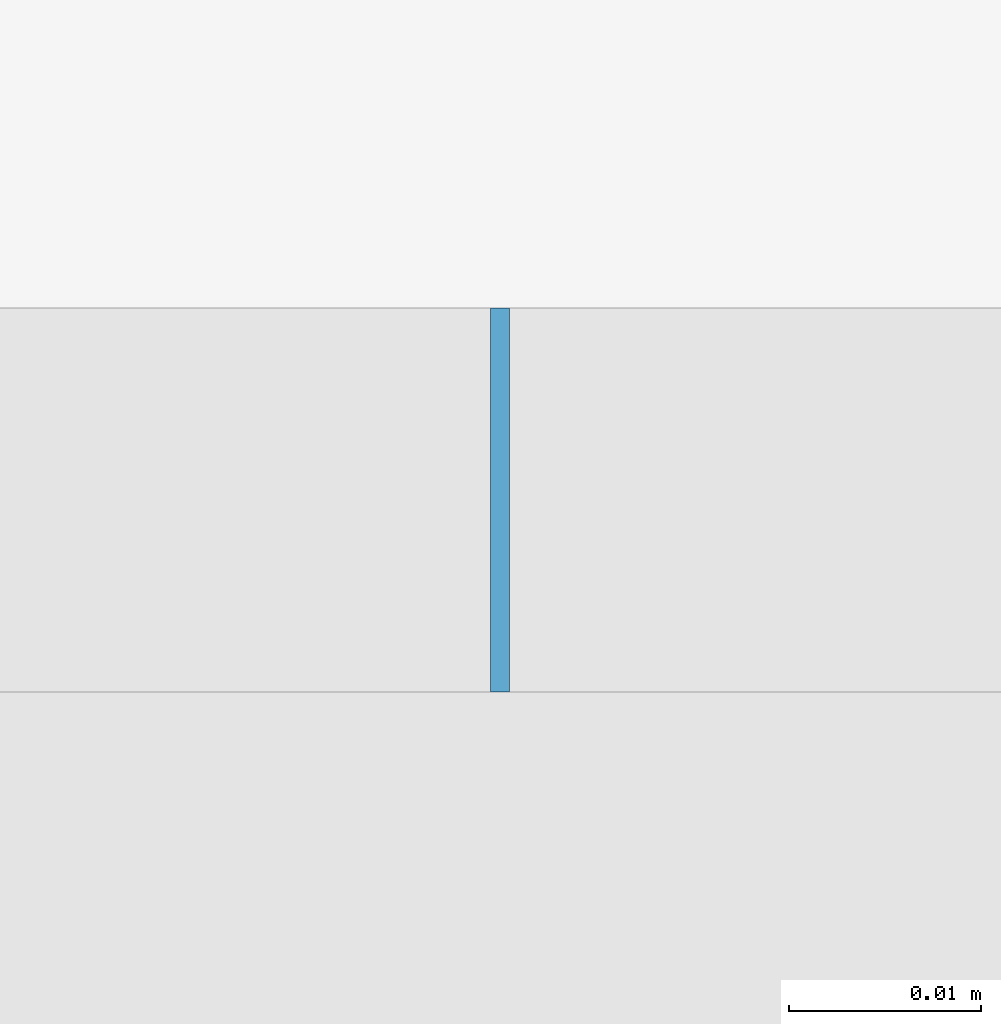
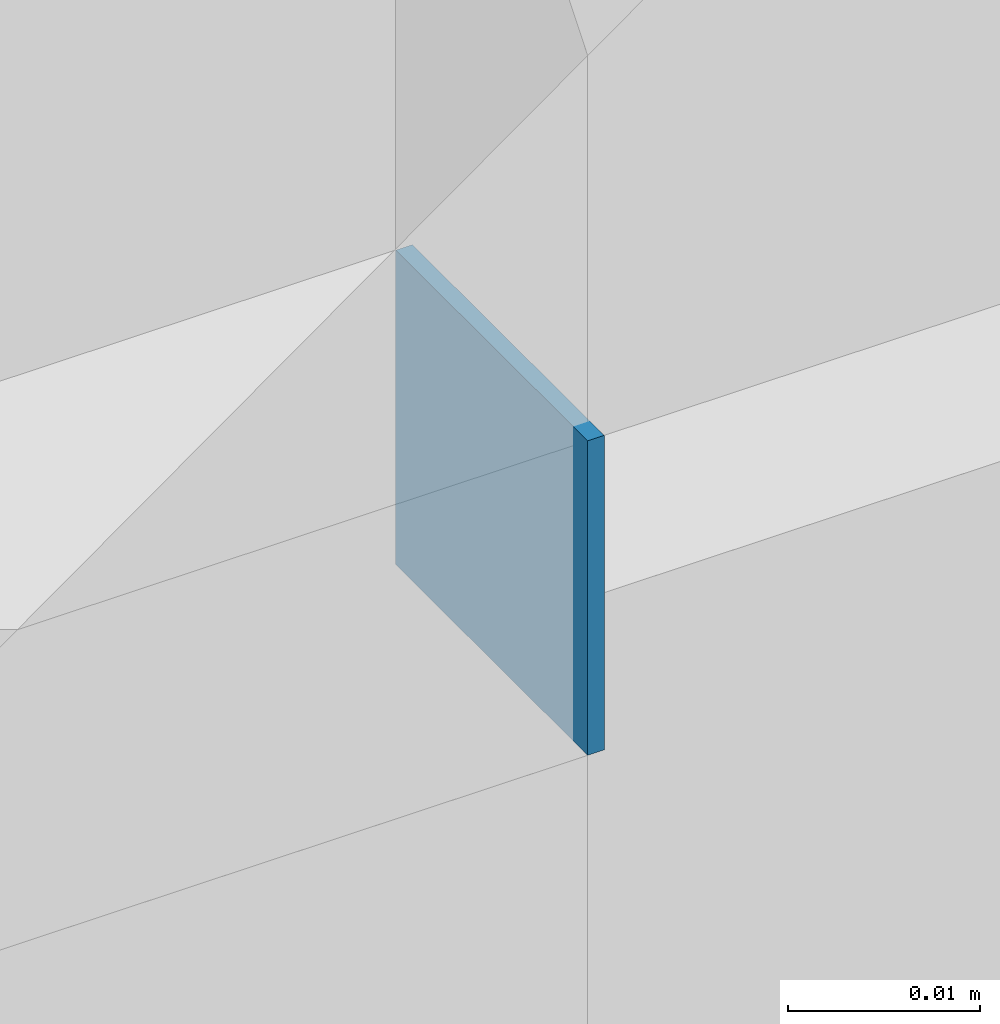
# One storey, part 23 of 73: 1 member, 1 element without a shape of its own.
"""IFC2X3 building model written with IfcOpenShell, lengths in millimetres."""

import ifcopenshell
import ifcopenshell.guid

model = None  # the IFC model being written
_history = None  # IfcOwnerHistory: only IFC2X3 demands one
_inside = {}  # id of a spatial element -> (the spatial element, [elements in it])
_under = {}  # id of a project, library or spatial element -> (it, [spatial elements below it])
_declared = {}  # id of a project -> (the project, [libraries it declares])
_typed = {}  # id of a type object -> (the type object, [elements of that type])
_made_of = {}  # id of a material, layer set ... -> (it, [elements and type objects made of it])


def new_model(schema):
    """Start an empty IFC model of exactly this schema.

    Asked for "IFC4X3", IfcOpenShell would pick the latest addendum, in which some entities
    have other attributes; the version numbers below select the first issue.
    IFC2X3 requires an IfcOwnerHistory on every rooted entity: one is made here for all.
    """
    global model, _history
    if schema == "IFC4X3":
        model = ifcopenshell.file(schema_version=(4, 3, 0, 0))
    else:
        model = ifcopenshell.file(schema=schema)
    _inside.clear()
    _under.clear()
    _declared.clear()
    _typed.clear()
    _made_of.clear()
    _history = None
    if model.schema == "IFC2X3":
        org = make("IfcOrganization", Name="unknown")
        user = make(
            "IfcPersonAndOrganization",
            ThePerson=make("IfcPerson", FamilyName="unknown"),
            TheOrganization=org,
        )
        app = make(
            "IfcApplication",
            ApplicationDeveloper=org,
            Version="unknown",
            ApplicationFullName="unknown",
            ApplicationIdentifier="unknown",
        )
        _history = make(
            "IfcOwnerHistory",
            OwningUser=user,
            OwningApplication=app,
            ChangeAction="ADDED",
            CreationDate=0,
        )
    return model


def make(cls, **values):
    """One entity of the class cls with the attributes given. An attribute that is None is left unset."""
    return model.create_entity(
        cls, **{name: value for name, value in values.items() if value is not None}
    )


def entity(cls, *values):
    """Any entity or typed value of the class cls, its attributes in the order of the schema. None: left unset."""
    e = model.create_entity(cls)
    for i, value in enumerate(values):
        if value is not None:
            e[i] = value
    return e


def rooted(cls, **values):
    """An entity with a GlobalId (a new one), such as an element, a storey or a relation."""
    return make(cls, GlobalId=ifcopenshell.guid.new(), OwnerHistory=_history, **values)


def si_unit(unit_type, name, prefix=None):
    """IfcSIUnit, for example si_unit("LENGTHUNIT", "METRE", prefix="MILLI")."""
    return make("IfcSIUnit", UnitType=unit_type, Prefix=prefix, Name=name)


def converted_unit(unit_type, name, factor, base, dimensions=None, offset=None):
    """IfcConversionBasedUnit, such as the inch: factor (a typed value) times the base unit."""
    return make(
        "IfcConversionBasedUnit"
        if offset is None
        else "IfcConversionBasedUnitWithOffset",
        ConversionOffset=offset,
        Dimensions=None
        if dimensions is None
        else entity("IfcDimensionalExponents", *dimensions),
        UnitType=unit_type,
        Name=name,
        ConversionFactor=make(
            "IfcMeasureWithUnit", ValueComponent=factor, UnitComponent=base
        ),
    )


def derived_unit(unit_type, elements):
    """IfcDerivedUnit: a product of units, each with its exponent."""
    return make(
        "IfcDerivedUnit",
        Elements=[
            make("IfcDerivedUnitElement", Unit=unit, Exponent=power)
            for unit, power in elements
        ],
        UnitType=unit_type,
    )


def assignment(units):
    """IfcUnitAssignment: the units of a project."""
    return None if units is None else make("IfcUnitAssignment", Units=units)


def point(xyz):
    """IfcCartesianPoint."""
    return None if xyz is None else make("IfcCartesianPoint", Coordinates=xyz)


def direction(xyz):
    """IfcDirection."""
    return None if xyz is None else make("IfcDirection", DirectionRatios=xyz)


def frame(location, z_axis=None, x_axis=None):
    """IfcAxis2Placement3D, a coordinate frame: its origin and axes. An axis left out is left unset."""
    return make(
        "IfcAxis2Placement3D",
        Location=point(location),
        Axis=direction(z_axis),
        RefDirection=direction(x_axis),
    )


def frame_2d(location, x_axis=None):
    """IfcAxis2Placement2D, a coordinate frame in the plane: its origin and x axis."""
    return make(
        "IfcAxis2Placement2D", Location=point(location), RefDirection=direction(x_axis)
    )


def origin():
    """The frame at (0, 0, 0) with its axes left unset."""
    return frame((0.0, 0.0, 0.0))


def origin_2d_with_axis():
    """The frame at (0, 0) in the plane with the x axis (1, 0) written out."""
    return frame_2d((0.0, 0.0), x_axis=(1.0, 0.0))


def place(relative_to, where):
    """IfcLocalPlacement: puts the frame where relative to a parent placement (None: the world)."""
    return make(
        "IfcLocalPlacement", PlacementRelTo=relative_to, RelativePlacement=where
    )


def context(
    kind, dimensions, precision=None, world=None, true_north=None, identifier=None
):
    """IfcGeometricRepresentationContext, for example the 3D "Model" context."""
    return make(
        "IfcGeometricRepresentationContext",
        ContextIdentifier=identifier,
        ContextType=kind,
        CoordinateSpaceDimension=dimensions,
        Precision=precision,
        WorldCoordinateSystem=world,
        TrueNorth=true_north,
    )


def subcontext(parent, identifier, kind, view, scale=None):
    """IfcGeometricRepresentationSubContext, for example "Body" below "Model"."""
    return make(
        "IfcGeometricRepresentationSubContext",
        ContextIdentifier=identifier,
        ContextType=kind,
        ParentContext=parent,
        TargetScale=scale,
        TargetView=view,
    )


def project(units=None, contexts=None):
    """IfcProject with its units and contexts."""
    return rooted(
        "IfcProject",
        Name="project",
        RepresentationContexts=contexts,
        UnitsInContext=assignment(units),
    )


def spatial(cls, under=None, at=None, **own):
    """A site, building, storey or space (cls), placed at a placement, below another one or the project."""
    s = rooted(cls, ObjectPlacement=at, **own)
    if under is not None:
        _under.setdefault(under.id(), (under, []))[1].append(s)
    return s


def profile(cls, at=None, kind="AREA", **sizes):
    """A parametric profile (cls). Its sizes go by their IFC names, for example OverallWidth=200.0."""
    return make(cls, ProfileType=kind, Position=at, **sizes)


def rectangle(**sizes):
    """IfcRectangleProfileDef."""
    return profile("IfcRectangleProfileDef", **sizes)


def extrude(swept, where, along, depth):
    """IfcExtrudedAreaSolid: the profile swept, set in the frame where, extruded along a direction by depth."""
    return make(
        "IfcExtrudedAreaSolid",
        SweptArea=swept,
        Position=where,
        ExtrudedDirection=direction(along),
        Depth=depth,
    )


def shape(context_of_items, identifier, shape_type, items):
    """IfcShapeRepresentation: the items that make up one representation, for example the "Body"."""
    return make(
        "IfcShapeRepresentation",
        ContextOfItems=context_of_items,
        RepresentationIdentifier=identifier,
        RepresentationType=shape_type,
        Items=items,
    )


def source(mapping_origin, context_of_items, identifier, shape_type, items):
    """IfcRepresentationMap: a shape defined once, which mapped items show again and again."""
    return make(
        "IfcRepresentationMap",
        MappingOrigin=mapping_origin,
        MappedRepresentation=shape(context_of_items, identifier, shape_type, items),
    )


def transform(
    local_origin,
    x_axis=None,
    y_axis=None,
    z_axis=None,
    scale=None,
    scale2=None,
    scale3=None,
    uniform=True,
):
    """IfcCartesianTransformationOperator3D, or its non-uniform kind. x_axis, y_axis, z_axis: its Axis1, 2, 3."""
    if uniform:
        return make(
            "IfcCartesianTransformationOperator3D",
            Axis1=direction(x_axis),
            Axis2=direction(y_axis),
            LocalOrigin=point(local_origin),
            Scale=scale,
            Axis3=direction(z_axis),
        )
    return make(
        "IfcCartesianTransformationOperator3DnonUniform",
        Axis1=direction(x_axis),
        Axis2=direction(y_axis),
        LocalOrigin=point(local_origin),
        Scale=scale,
        Axis3=direction(z_axis),
        Scale2=scale2,
        Scale3=scale3,
    )


def mapped(mapping_source, mapping_target):
    """IfcMappedItem: shows the shape of a source again, moved by a transform."""
    return make(
        "IfcMappedItem", MappingSource=mapping_source, MappingTarget=mapping_target
    )


def material(Name=None, Category=None):
    """IfcMaterial."""
    return make("IfcMaterial", Name=Name, Category=Category)


def made_of(thing, what):
    """Note that an element or type object is made of a material, layer set ...; save() writes the relation."""
    if what is not None:
        _made_of.setdefault(what.id(), (what, []))[1].append(thing)
    return thing


def type_object(cls, material=None, **own):
    """A type object (cls), such as IfcWallType, which elements share."""
    return made_of(rooted(cls, **own), material)


def type_shapes(of_type, sources):
    """Give a type object the sources (RepresentationMaps) that its elements show as mapped items."""
    of_type.RepresentationMaps = sources


def element(
    cls,
    number,
    at=None,
    inside=None,
    cuts=None,
    type_object=None,
    material=None,
    context=None,
    identifier="Body",
    shape_type=None,
    held_by="IfcProductDefinitionShape",
    body=None,
    shapes=None,
    **own,
):
    """One element of the class cls, such as IfcWall. Its Tag is "e" and its number.

    at: its placement. inside: the storey or other place that contains it. cuts: it is an
    opening in that element (IfcRelVoidsElement). A single representation is given by context,
    identifier, shape_type and body (its items); several are given by shapes. held_by: the class
    of the entity that holds the representations. save() writes the other relations.
    """
    e = rooted(cls, Tag="e%d" % number, ObjectPlacement=at, **own)
    if body is not None:
        shapes = [shape(context, identifier, shape_type, body)]
    if shapes is not None:
        e.Representation = make(held_by, Representations=shapes)
    if inside is not None:
        _inside.setdefault(inside.id(), (inside, []))[1].append(e)
    if cuts is not None:
        rooted(
            "IfcRelVoidsElement", RelatingBuildingElement=cuts, RelatedOpeningElement=e
        )
    if type_object is not None:
        _typed.setdefault(type_object.id(), (type_object, []))[1].append(e)
    return made_of(e, material)


def aggregate(whole, parts):
    """IfcRelAggregates: a whole, such as a stair, and the parts it consists of."""
    return rooted("IfcRelAggregates", RelatingObject=whole, RelatedObjects=parts)


def save(model, path):
    """Write the relations noted so far, then the file.

    IfcRelAggregates (storeys below a building ...), IfcRelContainedInSpatialStructure (elements
    in a storey), IfcRelDefinesByType, IfcRelAssociatesMaterial and IfcRelDeclares: one each for
    every whole, place, type object, material and project.
    """
    for whole, parts in _under.values():
        aggregate(whole, parts)
    for where, things in _inside.values():
        rooted(
            "IfcRelContainedInSpatialStructure",
            RelatedElements=things,
            RelatingStructure=where,
        )
    for kind, things in _typed.values():
        rooted("IfcRelDefinesByType", RelatedObjects=things, RelatingType=kind)
    for what, things in _made_of.values():
        rooted("IfcRelAssociatesMaterial", RelatedObjects=things, RelatingMaterial=what)
    for by, libraries in _declared.values():
        rooted("IfcRelDeclares", RelatingContext=by, RelatedDefinitions=libraries)
    model.write(path)


model = new_model("IFC2X3")

# Units and contexts
model_context = context("Model", 3, precision=0.01, world=origin(), true_north=direction((6.12303176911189e-17, 1.0)))
body_context = subcontext(model_context, "Body", "Model", "MODEL_VIEW")
ifc_project = project(units=[si_unit("LENGTHUNIT", "METRE", prefix="MILLI"), si_unit("AREAUNIT", "SQUARE_METRE"), si_unit("VOLUMEUNIT", "CUBIC_METRE"), converted_unit("PLANEANGLEUNIT", "DEGREE", entity("IfcRatioMeasure", 0.0174532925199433), si_unit("PLANEANGLEUNIT", "RADIAN"), dimensions=[0, 0, 0, 0, 0, 0, 0]), si_unit("MASSUNIT", "GRAM", prefix="KILO"), derived_unit("MASSDENSITYUNIT", [(si_unit("MASSUNIT", "GRAM", prefix="KILO"), 1), (si_unit("LENGTHUNIT", "METRE"), -3)]), si_unit("TIMEUNIT", "SECOND"), si_unit("FREQUENCYUNIT", "HERTZ"), si_unit("THERMODYNAMICTEMPERATUREUNIT", "DEGREE_CELSIUS"), derived_unit("THERMALTRANSMITTANCEUNIT", [(si_unit("MASSUNIT", "GRAM", prefix="KILO"), 1), (si_unit("THERMODYNAMICTEMPERATUREUNIT", "KELVIN"), -1), (si_unit("TIMEUNIT", "SECOND"), -3)]), derived_unit("VOLUMETRICFLOWRATEUNIT", [(si_unit("LENGTHUNIT", "METRE"), 3), (si_unit("TIMEUNIT", "SECOND"), -1)]), si_unit("ELECTRICCURRENTUNIT", "AMPERE"), si_unit("ELECTRICVOLTAGEUNIT", "VOLT"), si_unit("POWERUNIT", "WATT"), si_unit("FORCEUNIT", "NEWTON", prefix="KILO"), si_unit("ILLUMINANCEUNIT", "LUX"), si_unit("LUMINOUSFLUXUNIT", "LUMEN"), si_unit("LUMINOUSINTENSITYUNIT", "CANDELA"), derived_unit("USERDEFINED", [(si_unit("MASSUNIT", "GRAM", prefix="KILO"), -1), (si_unit("LENGTHUNIT", "METRE"), -2), (si_unit("TIMEUNIT", "SECOND"), 3), (si_unit("LUMINOUSFLUXUNIT", "LUMEN"), 1)]), derived_unit("LINEARVELOCITYUNIT", [(si_unit("LENGTHUNIT", "METRE"), 1), (si_unit("TIMEUNIT", "SECOND"), -1)]), si_unit("PRESSUREUNIT", "PASCAL"), derived_unit("USERDEFINED", [(si_unit("LENGTHUNIT", "METRE"), -2), (si_unit("MASSUNIT", "GRAM", prefix="KILO"), 1), (si_unit("TIMEUNIT", "SECOND"), -2)])], contexts=[model_context])

# Site, building, storey
site_placement = place(None, frame((-151.875543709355, 2715.0, 0.0)))
site = spatial("IfcSite", under=ifc_project, at=site_placement, Name="Surface", CompositionType="ELEMENT")
building_placement = place(site_placement, origin())
building = spatial("IfcBuilding", under=site, at=building_placement, CompositionType="ELEMENT")
storey_placement = place(building_placement, frame((0.0, 0.0, 6730.43000000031)))
storey = spatial("IfcBuildingStorey", under=building, at=storey_placement, Name="3 korrus", CompositionType="ELEMENT", Elevation=6730.43000000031)

# Curtain wall, member
curtain_wall_type = type_object("IfcCurtainWallType", Name="Curtain Wall:Klaassein KLS-19", PredefinedType="NOTDEFINED")
curtain_wall_placement = place(storey_placement, frame((0.0, 0.0, -6730.43000000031)))
curtain_wall = element("IfcCurtainWall", 1, at=curtain_wall_placement, inside=storey, type_object=curtain_wall_type, Name="Curtain Wall:Klaassein KLS-19", ObjectType="Curtain Wall:Klaassein KLS-19")
ifc_material = material(Name="__Uks_hele tamm")
member_type = type_object("IfcMemberType", Name="20 x 20mm", PredefinedType="MEMBER")
shared_shape = source(origin(), body_context, "Body", "SweptSolid", [
    extrude(rectangle(XDim=20.0, YDim=20.0, at=origin_2d_with_axis()), frame((0.0, 0.0, -1.0), z_axis=(0.0, 0.0, 1.0), x_axis=(0.0, -1.0, 0.0)), (0.0, 0.0, 1.0), 0.999999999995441),
])
type_shapes(member_type, [shared_shape])
member_placement = place(storey_placement, frame((19362.0647261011, 4355.04493399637, 2090.0), z_axis=(-1.0, 0.0, 0.0), x_axis=(0.0, 0.0, 1.0)))
member = element("IfcMember", 2, at=member_placement, type_object=member_type, material=ifc_material, Name="Rectangular Mullion:20 x 20mm", ObjectType="20 x 20mm", context=body_context, shape_type="MappedRepresentation", body=[
    mapped(shared_shape, transform((0.0, 0.0, 0.0), scale=1.0)),
])
aggregate(curtain_wall, [member])

save(model, "model.ifc")
